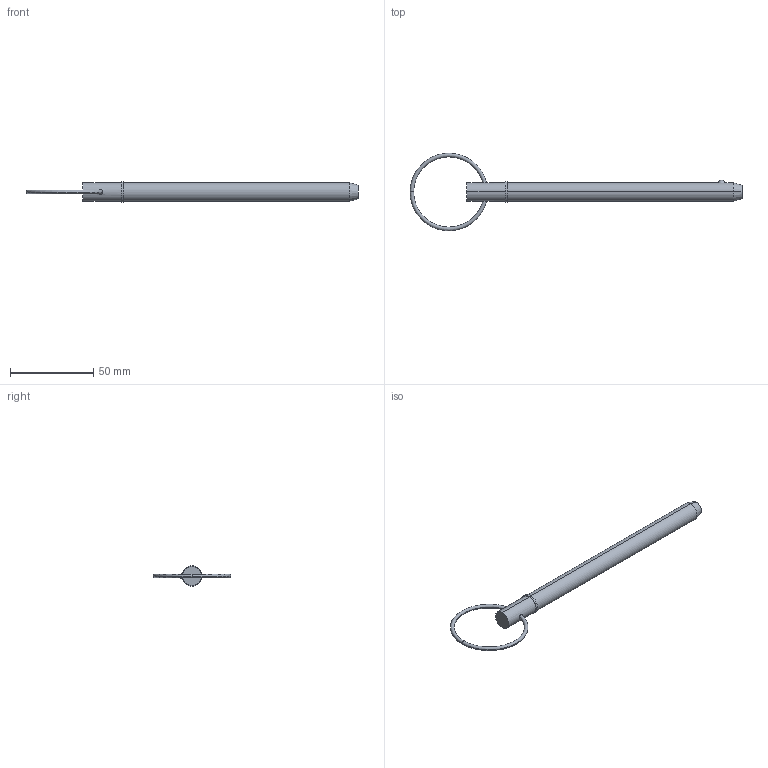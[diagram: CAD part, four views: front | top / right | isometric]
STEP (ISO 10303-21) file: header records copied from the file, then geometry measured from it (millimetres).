
FILE_DESCRIPTION (( 'STEP AP203' ), '1' );
FILE_NAME ('33014.W4350.step', '2024-11-04T08:29:05', ( '' ), ( '' ), 'SwSTEP 2.0', 'SolidWorks 2019', '' );
FILE_SCHEMA (( 'CONFIG_CONTROL_DESIGN' ));
Length unit declared in the file: millimetre
Products named in the file (3): Part2_33014.W4350; Part1_33014.W4350; 33014.W4350
Assembly tree (2 placements, depth 2):
  33014.W4350
    Part1_33014.W4350
    Part2_33014.W4350
Bounding box: 199.62 x 46.67 x 12.22 mm (x, y, z)
Volume: 16427.9 mm3; surface area: 7019.3 mm2
Topology: 2 solids, 2 shells, 22 faces, 43 edges, 26 vertices
Faces by surface type: torus 8, cylinder 6, plane 4, sphere 2, cone 2
Entity records: 1023 total; most frequent: CARTESIAN_POINT 246, DIRECTION 120, ORIENTED_EDGE 86, AXIS2_PLACEMENT_3D 56, EDGE_CURVE 43, CIRCLE 29, EDGE_LOOP 27, VERTEX_POINT 26
